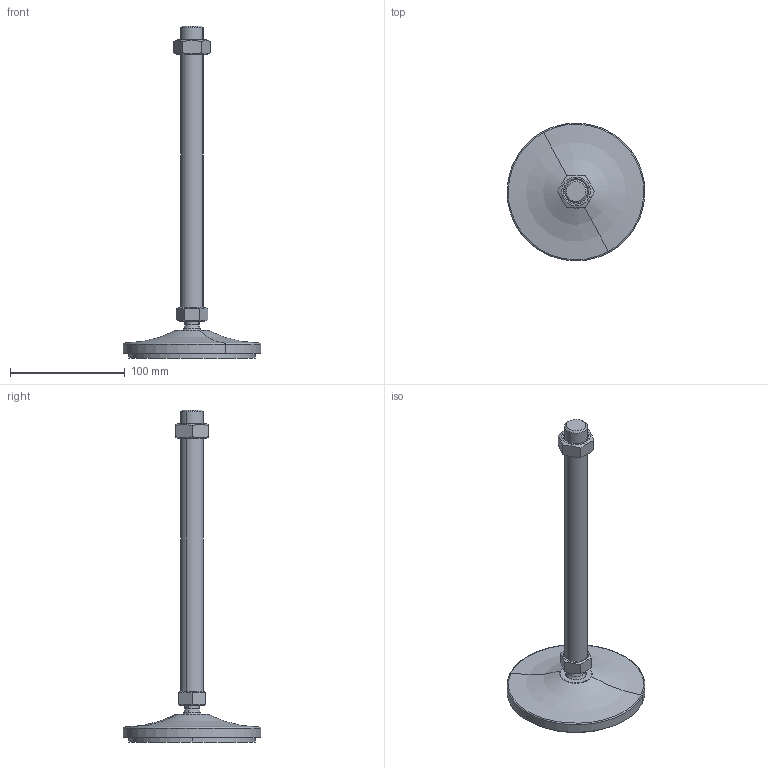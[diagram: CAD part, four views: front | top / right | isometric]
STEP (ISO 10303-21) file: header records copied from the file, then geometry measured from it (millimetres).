
FILE_DESCRIPTION(('CATIA V5 STEP Exchange'),'2;1');
FILE_NAME('C:\Users\ALI OZGUN\Desktop\alhan\saplama2\560122029AV.stp','2017-09-21T10:32:13+00:00',('none'),('none'),'CATIA Version 5 Release 21 GA (IN-10)','CATIA V5 STEP AP203','none');
FILE_SCHEMA(('CONFIG_CONTROL_DESIGN'));
Length unit declared in the file: millimetre
Products named in the file (1): 560122029AV
Bounding box: 119.97 x 119.97 x 289 mm (x, y, z)
Volume: 260598.7 mm3; surface area: 71041.7 mm2
Topology: 4 solids, 4 shells, 64 faces, 142 edges, 87 vertices
Faces by surface type: plane 22, cylinder 16, cone 16, torus 4, revolution 4, sphere 2
Entity records: 1957 total; most frequent: CARTESIAN_POINT 649, ORIENTED_EDGE 280, DIRECTION 197, EDGE_CURVE 140, AXIS2_PLACEMENT_3D 106, VERTEX_POINT 87, EDGE_LOOP 71, ADVANCED_FACE 64
